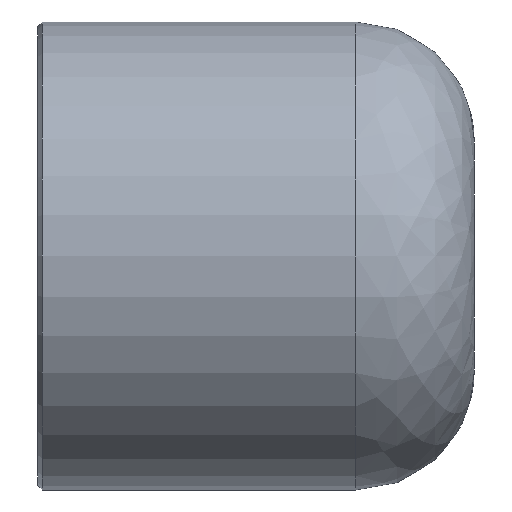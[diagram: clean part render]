
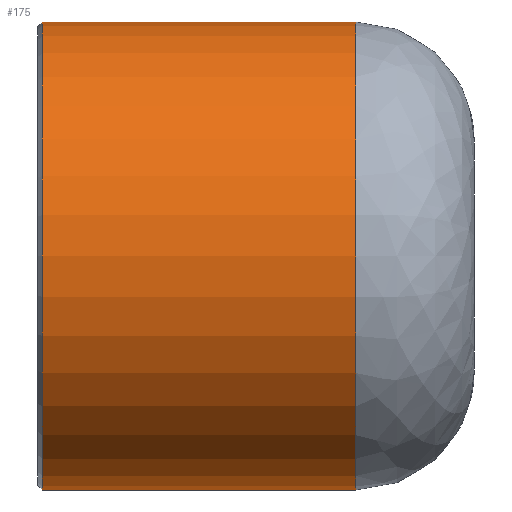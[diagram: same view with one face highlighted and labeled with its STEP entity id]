
A CAD part, front view. The second image highlights one B-rep face of the part: STEP entity #175.
In plain terms, the highlighted cylindrical face has radius 10.885 mm (diameter 21.77 mm), a full revolution.
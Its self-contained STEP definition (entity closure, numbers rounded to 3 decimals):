
#144=CARTESIAN_POINT('',(0.2,10.885,0.));
#145=VERTEX_POINT('',#144);
#146=CARTESIAN_POINT('',(0.2,0.0,0.0));
#147=DIRECTION('',(-1.0,0.0,0.0));
#148=DIRECTION('',(0.0,-1.0,0.0));
#149=AXIS2_PLACEMENT_3D('',#146,#147,#148);
#150=CIRCLE('',#149,10.885);
#151=EDGE_CURVE('',#145,#145,#150,.T.);
#156=CARTESIAN_POINT('',(7.4,0.0,0.0));
#157=DIRECTION('',(1.0,0.0,0.0));
#158=DIRECTION('',(0.0,1.0,0.0));
#159=AXIS2_PLACEMENT_3D('',#156,#157,#158);
#160=CYLINDRICAL_SURFACE('',#159,10.885);
#161=CARTESIAN_POINT('',(14.8,10.885,0.0));
#162=VERTEX_POINT('',#161);
#163=CARTESIAN_POINT('',(14.8,0.0,0.0));
#164=DIRECTION('',(1.0,0.0,0.0));
#165=DIRECTION('',(0.0,1.0,0.0));
#166=AXIS2_PLACEMENT_3D('',#163,#164,#165);
#167=CIRCLE('',#166,10.885);
#168=EDGE_CURVE('',#162,#162,#167,.T.);
#169=ORIENTED_EDGE('',*,*,#168,.F.);
#170=EDGE_LOOP('',(#169));
#171=FACE_OUTER_BOUND('',#170,.T.);
#172=ORIENTED_EDGE('',*,*,#151,.F.);
#173=EDGE_LOOP('',(#172));
#174=FACE_BOUND('',#173,.T.);
#175=ADVANCED_FACE('',(#171,#174),#160,.T.);
